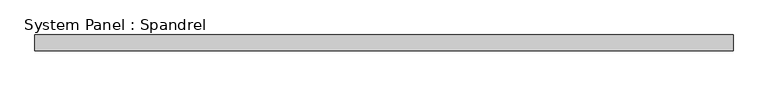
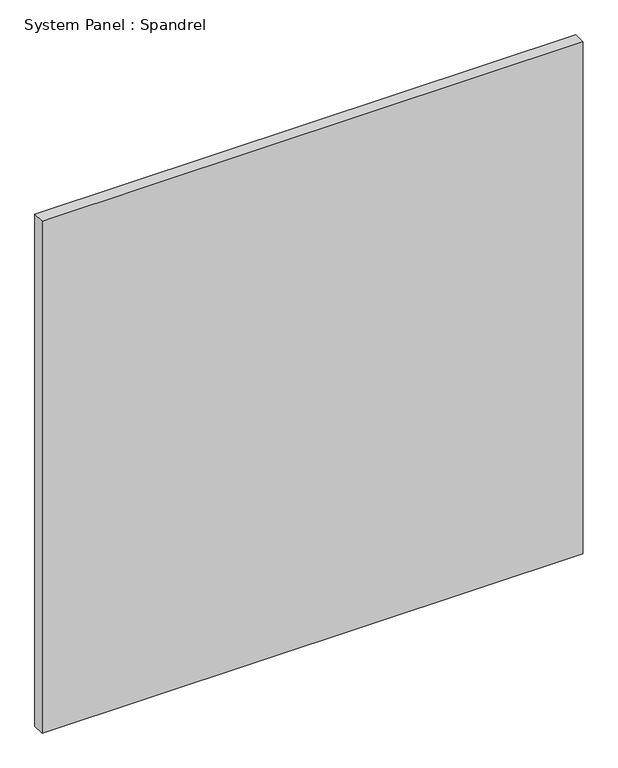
"""IFC4 building model written with IfcOpenShell, lengths in millimetres: plate geometry, System Panel : Spandrel."""

from ifc_helpers import new_model, si_unit, origin, origin_with_axes, place, context, project, spatial, polyline, outline, extrude, source, transform, mapped, element, save


def system_panel_spandrel_0a9ccecd(model_context):
    return source(origin(), model_context, "Body", "SweptSolid", [
        extrude(outline(polyline([(549.9999999, -25.0), (-549.9999999, -25.0), (-549.9999999, 0.0), (549.9999999, 0.0), (549.9999999, -25.0)])), origin_with_axes(), (0.0, 0.0, 1.0), 1100.0),
    ])


if __name__ == "__main__":
    model = new_model("IFC4")
    model_context = context("Model", 3, world=origin())
    ifc_project = project(units=[si_unit("LENGTHUNIT", "METRE", prefix="MILLI")], contexts=[model_context])
    site = spatial("IfcSite", under=ifc_project)
    building = spatial("IfcBuilding", under=site)
    placement = place(None, origin())
    system_panel_spandrel_shape = system_panel_spandrel_0a9ccecd(model_context)
    element("IfcPlate", 1, ObjectType="System Panel : Spandrel", at=placement, inside=building, context=model_context, shape_type="MappedRepresentation", body=[
        mapped(system_panel_spandrel_shape, transform((0.0, 0.0, 0.0), x_axis=(1.0, 0.0, 0.0), y_axis=(0.0, 1.0, 0.0), z_axis=(0.0, 0.0, 1.0))),
    ])
    save(model, "model.ifc")
